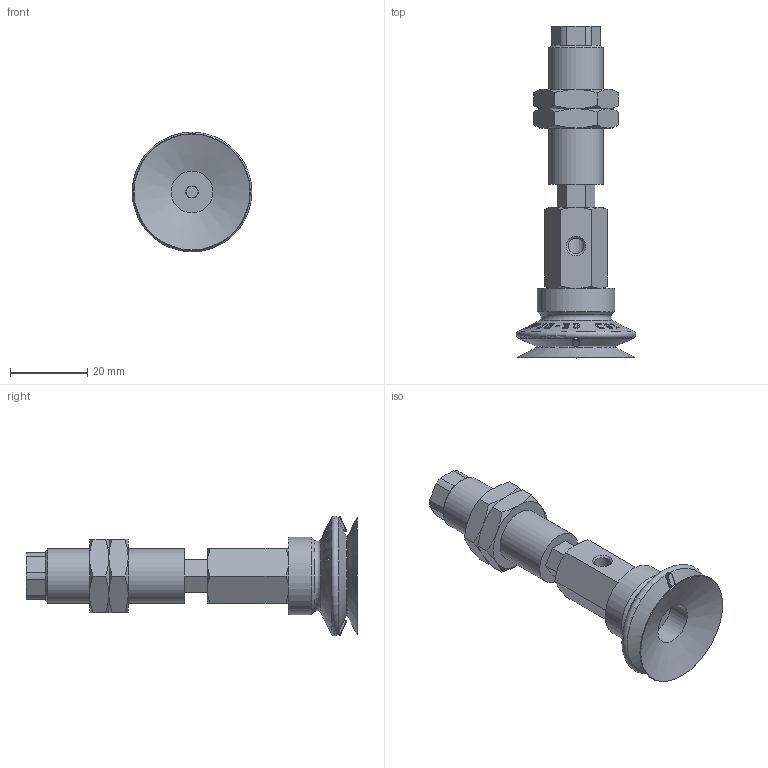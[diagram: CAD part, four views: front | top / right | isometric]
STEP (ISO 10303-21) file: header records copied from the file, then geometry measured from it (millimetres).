
FILE_DESCRIPTION(('STEP AP214'),'1');
FILE_NAME('.stp','2026-01-21T07:03:20',(' '),(' '),'Spatial InterOp 3D',' ',' ');
FILE_SCHEMA(('AUTOMOTIVE_DESIGN { 1 0 10303 214 1 1 1 1 }'));
Length unit declared in the file: millimetre
Products named in the file (7): BNABPJYH-30-6-※; BPJG-30-※; Adapter-30-NAPJ; CONNECTOR_H-30-6; NAPJH-30-6-NUT; NAPJYH-30-6-FBODY; NAPJYH-30-6-MBODY
Assembly tree (7 placements, depth 2):
  BNABPJYH-30-6-※
    BPJG-30-※
    Adapter-30-NAPJ
    CONNECTOR_H-30-6
    NAPJH-30-6-NUT  x2
    NAPJYH-30-6-FBODY
    NAPJYH-30-6-MBODY
Bounding box: 30.99 x 86 x 30.99 mm (x, y, z)
Volume: 17251.4 mm3; surface area: 12439.9 mm2
Topology: 7 solids, 7 shells, 792 faces, 2197 edges, 1442 vertices
Faces by surface type: plane 687, cone 70, cylinder 28, torus 7
Full cylindrical faces by diameter (mm): 3 x2, 4.134 x2, 4.917 x1, 5 x1, 5.8 x1, 6 x1, 10.8 x1, 11 x1, 13.188 x2, 14 x1, 20 x1
Entity records: 31710 total; most frequent: CARTESIAN_POINT 7850, ORIENTED_EDGE 4224, DIRECTION 2685, EDGE_CURVE 2112, VERTEX_POINT 1409, B_SPLINE_CURVE_WITH_KNOTS 1083, LINE 927, VECTOR 927
